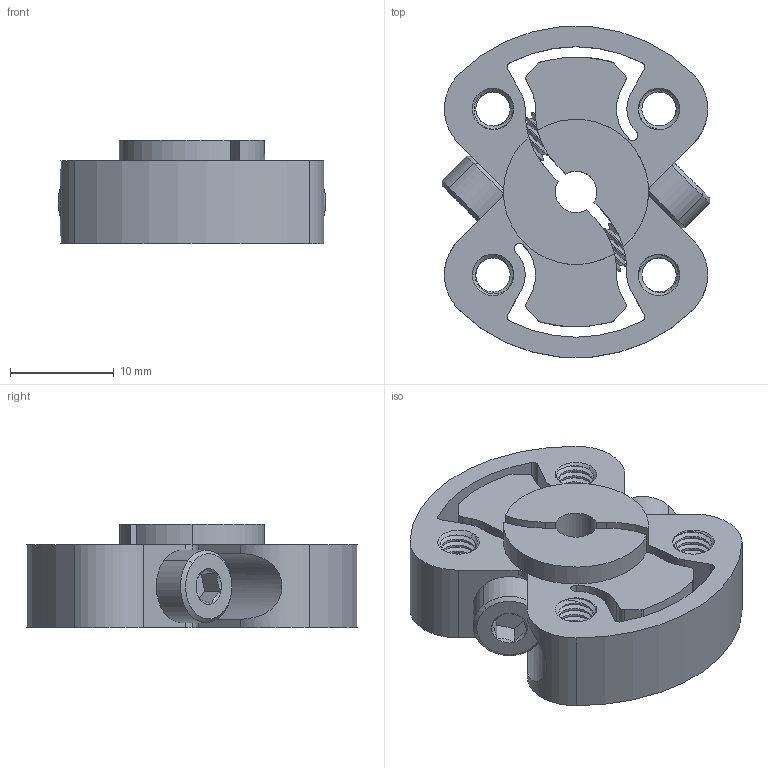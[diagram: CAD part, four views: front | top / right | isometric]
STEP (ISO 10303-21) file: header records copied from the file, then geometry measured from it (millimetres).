
FILE_DESCRIPTION (( 'STEP AP203' ), '1' );
FILE_NAME ('1309-0016-0004 assembly.STEP', '2020-11-18T16:36:21', ( '' ), ( '' ), 'SwSTEP 2.0', 'SolidWorks 2016', '' );
FILE_SCHEMA (( 'CONFIG_CONTROL_DESIGN' ));
Length unit declared in the file: millimetre
Products named in the file (3): 2800-0004-0014_90128A207; 1309-0016-0004; 1309-0016-0004 assembly
Assembly tree (3 placements, depth 2):
  1309-0016-0004 assembly
    1309-0016-0004
    2800-0004-0014_90128A207  x2
Bounding box: 25.79 x 31.88 x 10 mm (x, y, z)
Volume: 4466.6 mm3; surface area: 4975.3 mm2
Topology: 3 solids, 3 shells, 706 faces, 2045 edges, 1346 vertices
Faces by surface type: cylinder 580, cone 49, plane 47, bspline 30
Entity records: 53479 total; most frequent: CARTESIAN_POINT 40010, ORIENTED_EDGE 3500, DIRECTION 2084, EDGE_CURVE 1750, VERTEX_POINT 1155, AXIS2_PLACEMENT_3D 772, EDGE_LOOP 615, FACE_OUTER_BOUND 598
